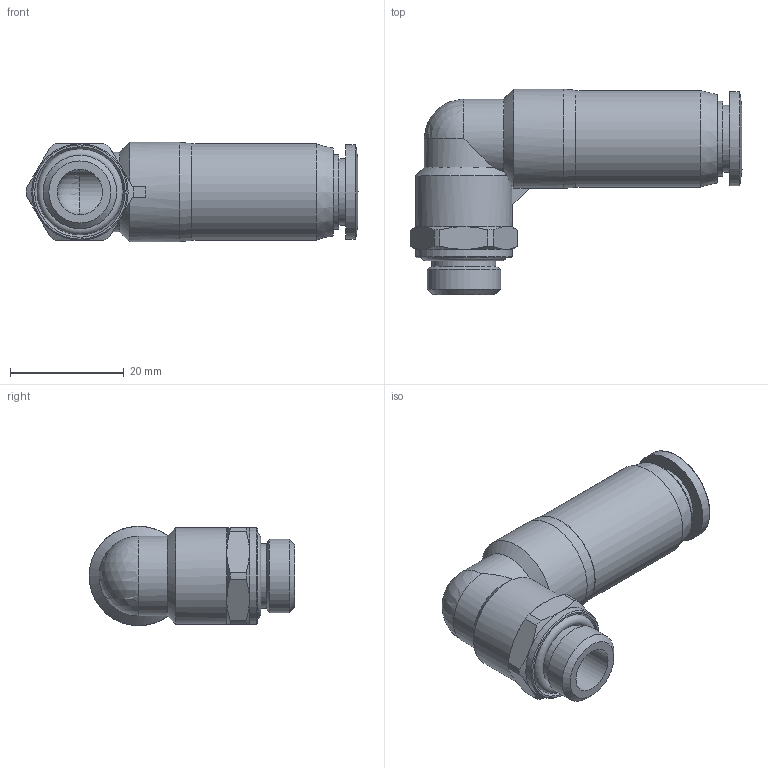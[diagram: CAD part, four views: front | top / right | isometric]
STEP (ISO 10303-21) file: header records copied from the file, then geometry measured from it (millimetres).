
FILE_DESCRIPTION((''),'2;1');
FILE_NAME('D:\INVENTOR\[New Inventor]\CDC Products 3D Ass''y\Stop Fittings\G\SPL-G\SPL10-G02.stp','2009-02-13T13:34:00',('Microsoft'),(''),'Autodesk Inventor 2008','Autodesk Inventor 2008','');
FILE_SCHEMA(('AUTOMOTIVE_DESIGN { 1 0 10303 214 1 1 1 1 }'));
Length unit declared in the file: millimetre
Products named in the file (1): SPL10-G02
Bounding box: 58.5 x 36.25 x 17.5 mm (x, y, z)
Volume: 10990.4 mm3; surface area: 6795.6 mm2
Topology: 1 solids, 2 shells, 67 faces, 155 edges, 92 vertices
Faces by surface type: cylinder 21, cone 21, plane 19, torus 3, sphere 2, bspline 1
Full cylindrical faces by diameter (mm): 8 x2, 10.3 x1, 11.3 x2, 11.8 x1, 12.95 x1, 13.2 x1, 16.6 x1, 17 x3, 17.5 x1
Entity records: 1742 total; most frequent: CARTESIAN_POINT 407, DIRECTION 288, ORIENTED_EDGE 236, AXIS2_PLACEMENT_3D 135, EDGE_CURVE 118, EDGE_LOOP 101, VERTEX_POINT 83, FACE_OUTER_BOUND 67
